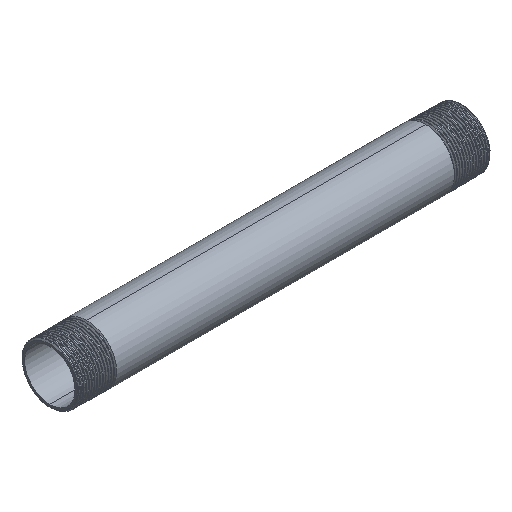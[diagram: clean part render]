
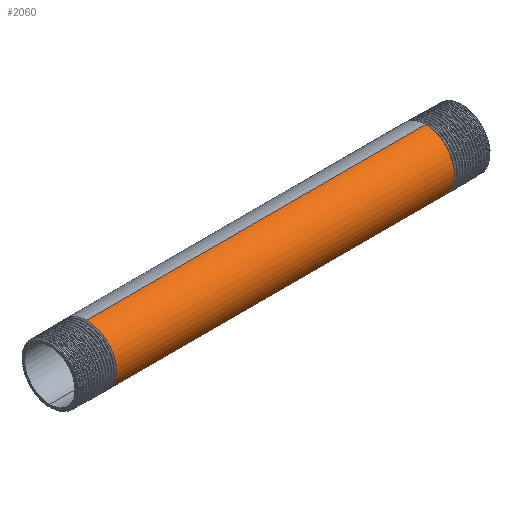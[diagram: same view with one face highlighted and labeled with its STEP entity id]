
A CAD part, isometric view. The second image highlights one B-rep face of the part: STEP entity #2060.
In plain terms, the highlighted cylindrical face has radius 10.65 mm (diameter 21.3 mm), a partial arc.
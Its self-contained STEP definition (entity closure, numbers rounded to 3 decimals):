
#11 = CARTESIAN_POINT ( 'NONE',  ( -61.563, -4.411, 10.65 ) ) ;
#369 = CARTESIAN_POINT ( 'NONE',  ( -149.494, 0., -10.65 ) ) ;
#638 = ORIENTED_EDGE ( 'NONE', *, *, #1370, .T. ) ;
#731 = CARTESIAN_POINT ( 'NONE',  ( 61.438, -10.65, 4.411 ) ) ;
#755 = CARTESIAN_POINT ( 'NONE',  ( -61.625, 0., 10.65 ) ) ;
#802 = VERTEX_POINT ( 'NONE', #9495 ) ;
#1370 = EDGE_CURVE ( 'NONE', #8706, #10370, #7706, .T. ) ;
#1889 = DIRECTION ( 'NONE',  ( 0., 0., 1. ) ) ;
#2060 = ADVANCED_FACE ( 'NONE', ( #4558 ), #2915, .T. ) ;
#2440 = CARTESIAN_POINT ( 'NONE',  ( 61.125, 0., -10.65 ) ) ;
#2495 = CARTESIAN_POINT ( 'NONE',  ( 61.313, -10.65, -4.411 ) ) ;
#2631 = CARTESIAN_POINT ( 'NONE',  ( -61.188, -4.411, -10.65 ) ) ;
#2686 = CARTESIAN_POINT ( 'NONE',  ( -61.438, -10.65, 4.411 ) ) ;
#2915 = CYLINDRICAL_SURFACE ( 'NONE', #5421, 10.65 ) ;
#3971 = CARTESIAN_POINT ( 'NONE',  ( 61.188, -4.411, -10.65 ) ) ;
#4084 = CARTESIAN_POINT ( 'NONE',  ( -149.494, 0., 10.65 ) ) ;
#4325 = CARTESIAN_POINT ( 'NONE',  ( -61.125, 0., -10.65 ) ) ;
#4435 = CARTESIAN_POINT ( 'NONE',  ( -61.5, -7.531, 7.531 ) ) ;
#4558 = FACE_OUTER_BOUND ( 'NONE', #9616, .T. ) ;
#4990 = VERTEX_POINT ( 'NONE', #5511 ) ;
#4997 = CARTESIAN_POINT ( 'NONE',  ( 61.5, -7.531, 7.531 ) ) ;
#5054 = CARTESIAN_POINT ( 'NONE',  ( 61.375, -10.65, 0. ) ) ;
#5421 = AXIS2_PLACEMENT_3D ( 'NONE', #6389, #10672, #1889 ) ;
#5511 = CARTESIAN_POINT ( 'NONE',  ( -61.125, 0., -10.65 ) ) ;
#5616 = DIRECTION ( 'NONE',  ( -1., 0., 0. ) ) ;
#5749 = CARTESIAN_POINT ( 'NONE',  ( 61.25, -7.531, -7.531 ) ) ;
#6389 = CARTESIAN_POINT ( 'NONE',  ( -149.494, 0., 0. ) ) ;
#6651 = VECTOR ( 'NONE', #5616, 1000. ) ;
#7706 =( BOUNDED_CURVE ( )  B_SPLINE_CURVE ( 2, ( #9331, #3971, #5749, #2495, #5054, #731, #4997, #8543, #10138 ),
 .UNSPECIFIED., .F., .F. ) 
 B_SPLINE_CURVE_WITH_KNOTS ( ( 3, 2, 2, 2, 3 ),
 ( 0., 0.007, 0.014, 0.021, 0.028 ),
 .UNSPECIFIED. ) 
 CURVE ( )  GEOMETRIC_REPRESENTATION_ITEM ( )  RATIONAL_B_SPLINE_CURVE ( ( 1., 0.924, 1., 0.924, 1., 0.924, 1., 0.924, 1. ) ) 
 REPRESENTATION_ITEM ( '' )  );
#7742 = DIRECTION ( 'NONE',  ( -1., 0., 0. ) ) ;
#7816 = CARTESIAN_POINT ( 'NONE',  ( -61.375, -10.65, 0. ) ) ;
#7913 = VECTOR ( 'NONE', #7742, 1000. ) ;
#8079 = EDGE_CURVE ( 'NONE', #4990, #802, #10039, .T. ) ;
#8205 = ORIENTED_EDGE ( 'NONE', *, *, #8079, .F. ) ;
#8543 = CARTESIAN_POINT ( 'NONE',  ( 61.563, -4.411, 10.65 ) ) ;
#8548 = LINE ( 'NONE', #4084, #7913 ) ;
#8570 = CARTESIAN_POINT ( 'NONE',  ( -61.25, -7.531, -7.531 ) ) ;
#8706 = VERTEX_POINT ( 'NONE', #2440 ) ;
#8909 = ORIENTED_EDGE ( 'NONE', *, *, #10379, .F. ) ;
#9038 = CARTESIAN_POINT ( 'NONE',  ( 61.625, 0., 10.65 ) ) ;
#9272 = EDGE_CURVE ( 'NONE', #10370, #802, #8548, .T. ) ;
#9331 = CARTESIAN_POINT ( 'NONE',  ( 61.125, 0., -10.65 ) ) ;
#9495 = CARTESIAN_POINT ( 'NONE',  ( -61.625, 0., 10.65 ) ) ;
#9578 = CARTESIAN_POINT ( 'NONE',  ( -61.313, -10.65, -4.411 ) ) ;
#9616 = EDGE_LOOP ( 'NONE', ( #8909, #638, #10953, #8205 ) ) ;
#10039 =( BOUNDED_CURVE ( )  B_SPLINE_CURVE ( 2, ( #4325, #2631, #8570, #9578, #7816, #2686, #4435, #11, #755 ),
 .UNSPECIFIED., .F., .T. ) 
 B_SPLINE_CURVE_WITH_KNOTS ( ( 3, 2, 2, 2, 3 ),
 ( 0., 0.007, 0.014, 0.021, 0.028 ),
 .UNSPECIFIED. ) 
 CURVE ( )  GEOMETRIC_REPRESENTATION_ITEM ( )  RATIONAL_B_SPLINE_CURVE ( ( 1., 0.924, 1., 0.924, 1., 0.924, 1., 0.924, 1. ) ) 
 REPRESENTATION_ITEM ( '' )  );
#10138 = CARTESIAN_POINT ( 'NONE',  ( 61.625, 0., 10.65 ) ) ;
#10370 = VERTEX_POINT ( 'NONE', #9038 ) ;
#10379 = EDGE_CURVE ( 'NONE', #8706, #4990, #10689, .T. ) ;
#10672 = DIRECTION ( 'NONE',  ( -1., 0., 0. ) ) ;
#10689 = LINE ( 'NONE', #369, #6651 ) ;
#10953 = ORIENTED_EDGE ( 'NONE', *, *, #9272, .T. ) ;
